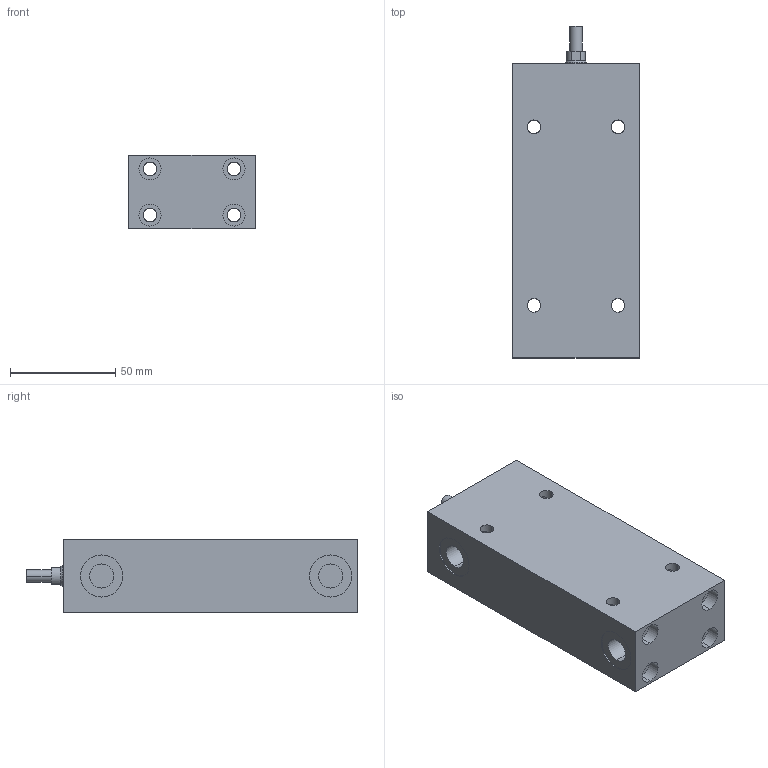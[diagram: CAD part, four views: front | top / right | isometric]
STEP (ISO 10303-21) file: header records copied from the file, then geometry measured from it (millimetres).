
FILE_DESCRIPTION (( 'STEP AP203' ), '1' );
FILE_NAME ('GERMA_Blockzylinder_600-016-100-A.STEP', '2015-07-16T12:22:13', ( '' ), ( '' ), 'SwSTEP 2.0', 'SolidWorks 2015', '' );
FILE_SCHEMA (( 'CONFIG_CONTROL_DESIGN' ));
Length unit declared in the file: millimetre
Products named in the file (3): Kolben 60x-016_Kolben DU.16-Hub100-AG; GH-600-016_GH-600-016-100; GERMA_Blockzylinder_600-016-100-A
Assembly tree (2 placements, depth 2):
  GERMA_Blockzylinder_600-016-100-A
    GH-600-016_GH-600-016-100
    Kolben 60x-016_Kolben DU.16-Hub100-AG
Bounding box: 60 x 158 x 35 mm (x, y, z)
Volume: 254760.7 mm3; surface area: 56471.7 mm2
Topology: 2 solids, 2 shells, 131 faces, 314 edges, 187 vertices
Faces by surface type: cylinder 89, plane 30, cone 12
Entity records: 4108 total; most frequent: CARTESIAN_POINT 825, DIRECTION 645, ORIENTED_EDGE 620, EDGE_CURVE 310, AXIS2_PLACEMENT_3D 263, VERTEX_POINT 187, EDGE_LOOP 167, ADVANCED_FACE 131
